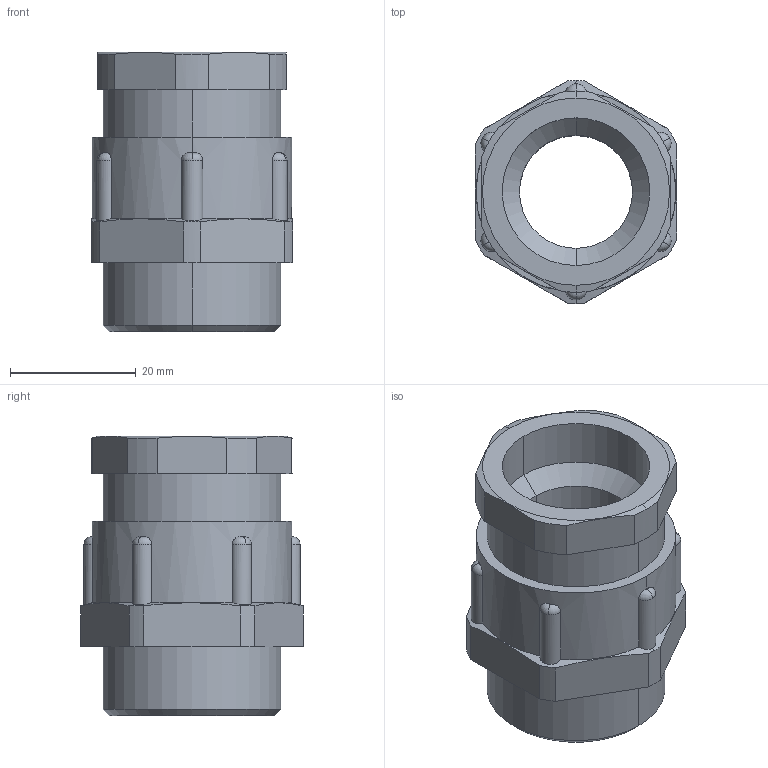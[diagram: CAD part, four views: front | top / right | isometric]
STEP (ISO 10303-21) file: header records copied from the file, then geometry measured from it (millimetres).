
FILE_DESCRIPTION (( 'STEP AP203' ), '1' );
FILE_NAME ('28.621 PA.STEP', '2007-01-03T08:02:42', ( ' ' ), ( '' ), 'SwSTEP 2.0', 'SolidWorks 2005278', '' );
FILE_SCHEMA (( 'CONFIG_CONTROL_DESIGN' ));
Length unit declared in the file: millimetre
Products named in the file (1): 28.621 PA
Bounding box: 32 x 35.5 x 44.5 mm (x, y, z)
Volume: 19921.5 mm3; surface area: 8367.8 mm2
Topology: 1 solids, 1 shells, 110 faces, 298 edges, 196 vertices
Faces by surface type: plane 60, cylinder 30, torus 12, cone 8
Entity records: 3827 total; most frequent: CARTESIAN_POINT 941, ORIENTED_EDGE 596, DIRECTION 584, EDGE_CURVE 298, AXIS2_PLACEMENT_3D 207, VERTEX_POINT 196, LINE 170, VECTOR 170
